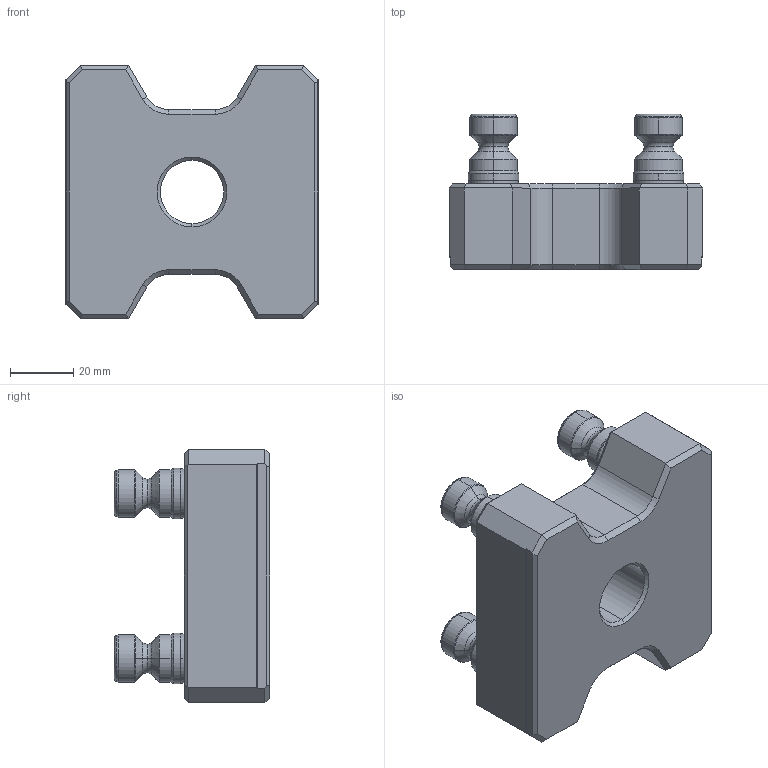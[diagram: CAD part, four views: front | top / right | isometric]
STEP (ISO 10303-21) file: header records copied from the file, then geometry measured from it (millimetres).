
FILE_DESCRIPTION (( 'STEP AP203' ), '1' );
FILE_NAME ('44522.STEP', '2021-09-13T12:59:20', ( '' ), ( '' ), 'SwSTEP 2.0', 'SolidWorks 2019', '' );
FILE_SCHEMA (( 'CONFIG_CONTROL_DESIGN' ));
Length unit declared in the file: millimetre
Products named in the file (1): 44522
Bounding box: 80 x 49.01 x 80 mm (x, y, z)
Volume: 152134 mm3; surface area: 26164.4 mm2
Topology: 5 solids, 5 shells, 182 faces, 400 edges, 232 vertices
Faces by surface type: plane 68, cone 44, cylinder 38, torus 32
Entity records: 5005 total; most frequent: DIRECTION 946, CARTESIAN_POINT 815, ORIENTED_EDGE 800, EDGE_CURVE 400, AXIS2_PLACEMENT_3D 363, VERTEX_POINT 232, VECTOR 220, LINE 220
